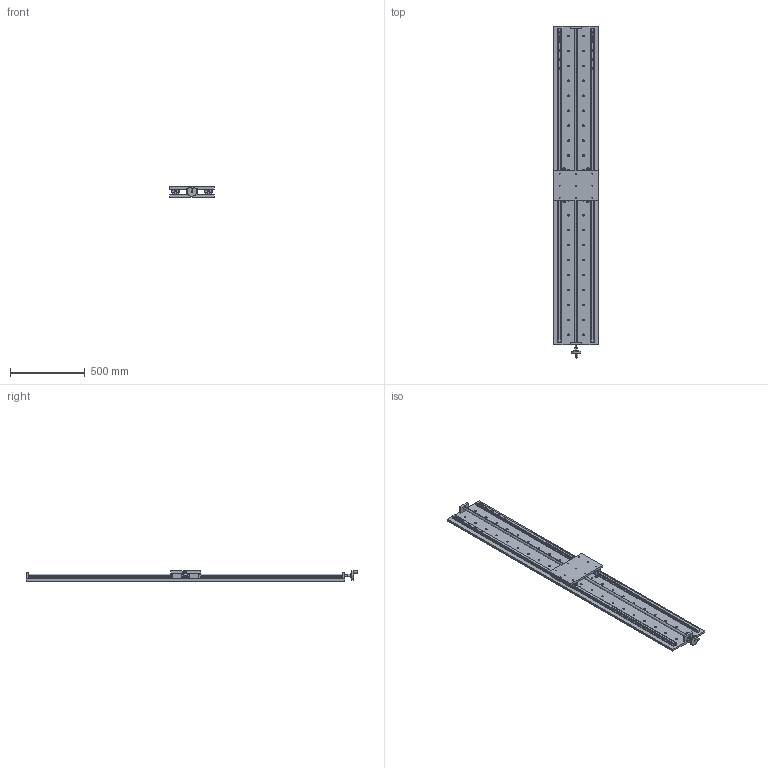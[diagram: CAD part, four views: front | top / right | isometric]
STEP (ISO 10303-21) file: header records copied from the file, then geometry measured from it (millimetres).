
FILE_DESCRIPTION (( 'STEP AP214' ), '1' );
FILE_NAME ('PT300-1900.STEP', '2022-09-18T06:42:29', ( '' ), ( '' ), 'SwSTEP 2.0', 'SolidWorks 2017', '' );
FILE_SCHEMA (( 'AUTOMOTIVE_DESIGN' ));
Length unit declared in the file: millimetre
Products named in the file (12): 標踡; HGH25C__X2_5DE65C01_X0__temp; 忒謫; HGR25_temp-1900; PT300-1900; HGH25CA2R300Z0C_GW202204023669; 菁啣-1900; 標踡輸; 34320001; 醱啣; M6H; HGH25C__X2_53F35C01_X0__temp
Assembly tree (12 placements, depth 3):
  PT300-1900
    菁啣-1900
    醱啣
    HGH25CA2R300Z0C_GW202204023669  x2
      HGR25_temp-1900
      HGH25C__X2_53F35C01_X0__temp
      M6H
      HGH25C__X2_5DE65C01_X0__temp
      34320001
    標踡
      標踡輸
      忒謫
Bounding box: 300 x 2222.1 x 70.06 mm (x, y, z)
Volume: 13490169 mm3; surface area: 2186007.2 mm2
Topology: 31 solids, 33 shells, 3179 faces, 8854 edges, 5846 vertices
Faces by surface type: plane 2019, cylinder 894, bspline 202, cone 56, torus 8
Entity records: 78201 total; most frequent: CARTESIAN_POINT 15556, ORIENTED_EDGE 10048, DIRECTION 9300, EDGE_CURVE 5024, LINE 3518, VECTOR 3518, VERTEX_POINT 3335, AXIS2_PLACEMENT_3D 2891
